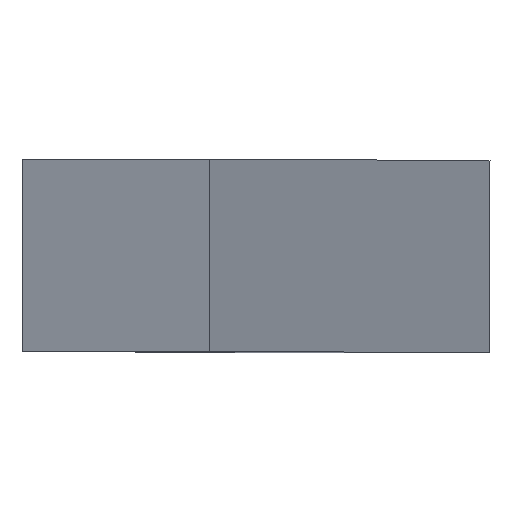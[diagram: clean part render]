
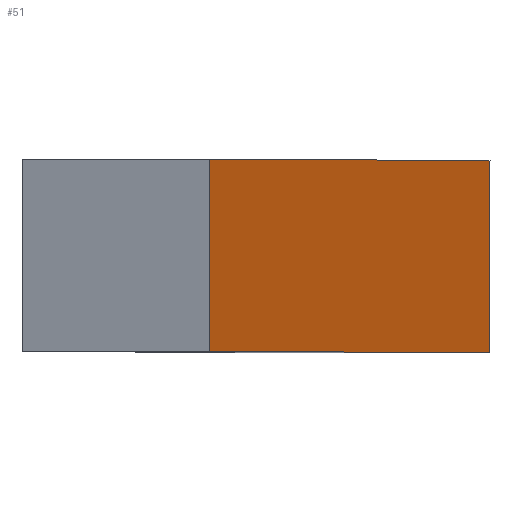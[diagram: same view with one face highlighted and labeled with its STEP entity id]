
A CAD part, top view. The second image highlights one B-rep face of the part: STEP entity #51.
In plain terms, the highlighted planar face has unit normal (0.946, 0, 0.325).
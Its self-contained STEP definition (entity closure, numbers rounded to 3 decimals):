
#51=ADVANCED_FACE('',(#59),#60,.F.);
#59=FACE_OUTER_BOUND('',#72,.T.);
#60=PLANE('',#73);
#72=EDGE_LOOP('',(#85,#86,#87,#88));
#73=AXIS2_PLACEMENT_3D('',#89,#90,#91);
#85=ORIENTED_EDGE('',*,*,#128,.T.);
#86=ORIENTED_EDGE('',*,*,#129,.F.);
#87=ORIENTED_EDGE('',*,*,#130,.F.);
#88=ORIENTED_EDGE('',*,*,#131,.F.);
#89=CARTESIAN_POINT('',(211.431,31.5,-12.424));
#90=DIRECTION('',(-0.946,0.,-0.325));
#91=DIRECTION('',(0.325,0.0,-0.946));
#128=EDGE_CURVE('',#140,#141,#142,.T.);
#129=EDGE_CURVE('',#143,#141,#144,.T.);
#130=EDGE_CURVE('',#145,#143,#146,.T.);
#131=EDGE_CURVE('',#140,#145,#147,.T.);
#140=VERTEX_POINT('',#160);
#141=VERTEX_POINT('',#161);
#142=LINE('',#162,#163);
#143=VERTEX_POINT('',#164);
#144=LINE('',#165,#166);
#145=VERTEX_POINT('',#167);
#146=LINE('',#168,#169);
#147=LINE('',#170,#171);
#160=CARTESIAN_POINT('',(213.544,30.9,-18.569));
#161=CARTESIAN_POINT('',(209.318,30.9,-6.279));
#162=CARTESIAN_POINT('',(211.756,30.9,-13.37));
#163=VECTOR('',#192,1.);
#164=CARTESIAN_POINT('',(209.318,28.,-6.279));
#165=CARTESIAN_POINT('',(209.318,28.,-6.279));
#166=VECTOR('',#193,1.);
#167=CARTESIAN_POINT('',(213.544,28.,-18.569));
#168=CARTESIAN_POINT('',(213.544,28.,-18.569));
#169=VECTOR('',#194,1.);
#170=CARTESIAN_POINT('',(213.544,35.,-18.569));
#171=VECTOR('',#195,1.);
#192=DIRECTION('',(-0.325,0.,0.946));
#193=DIRECTION('',(0.,1.0,0.));
#194=DIRECTION('',(-0.325,0.0,0.946));
#195=DIRECTION('',(0.,-1.0,0.));
